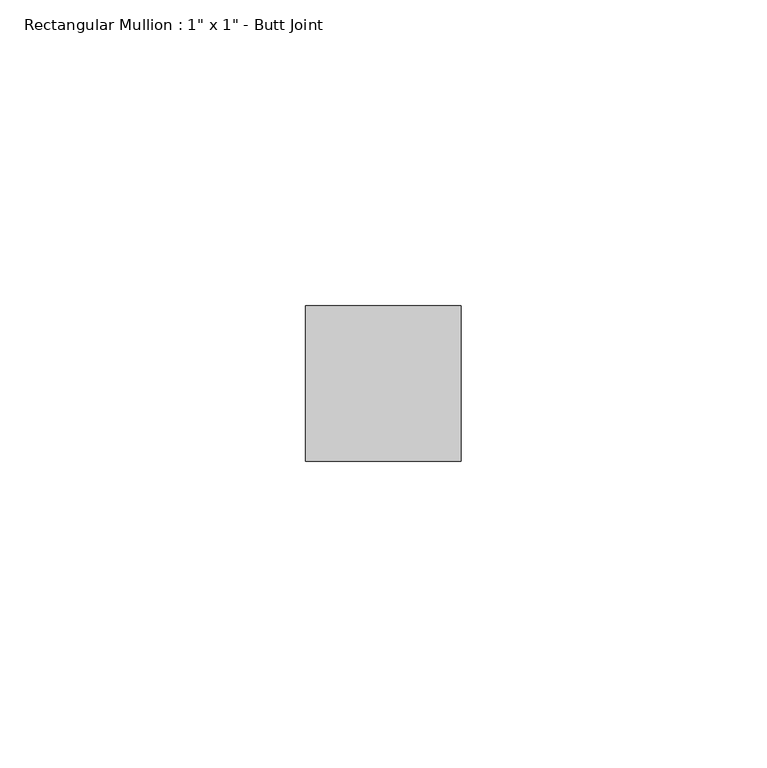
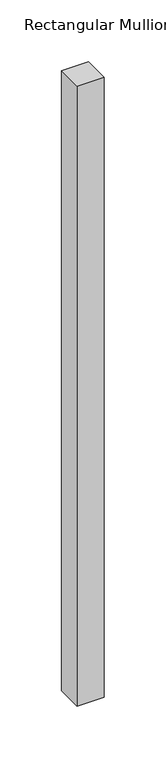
"""IFC4 building model written with IfcOpenShell, lengths in millimetres: member geometry."""

from ifc_helpers import new_model, si_unit, frame, origin, place, context, project, spatial, polyline, outline, extrude, source, transform, mapped, element, save


def member_2883aa03(model_context):
    return source(origin(), model_context, "Body", "SweptSolid", [
        extrude(outline(polyline([(12.7, 12.7), (12.7, -12.7), (-12.7, -12.7), (-12.7, 12.7), (12.7, 12.7)])), frame((0.0, 0.0, -613.8456956), z_axis=(0.0, 0.0, 1.0), x_axis=(1.0, 0.0, 0.0)), (0.0, 0.0, 1.0), 613.8456956),
    ])


if __name__ == "__main__":
    model = new_model("IFC4")
    model_context = context("Model", 3, world=origin())
    ifc_project = project(units=[si_unit("LENGTHUNIT", "METRE", prefix="MILLI")], contexts=[model_context])
    site = spatial("IfcSite", under=ifc_project)
    building = spatial("IfcBuilding", under=site)
    placement = place(None, origin())
    member_shape = member_2883aa03(model_context)
    element("IfcMember", 1, ObjectType="Rectangular Mullion : 1\" x 1\" - Butt Joint", at=placement, inside=building, context=model_context, shape_type="MappedRepresentation", body=[
        mapped(member_shape, transform((0.0, 0.0, 0.0), x_axis=(1.0, 0.0, 0.0), y_axis=(0.0, 1.0, 0.0), z_axis=(0.0, 0.0, 1.0))),
    ])
    save(model, "model.ifc")
